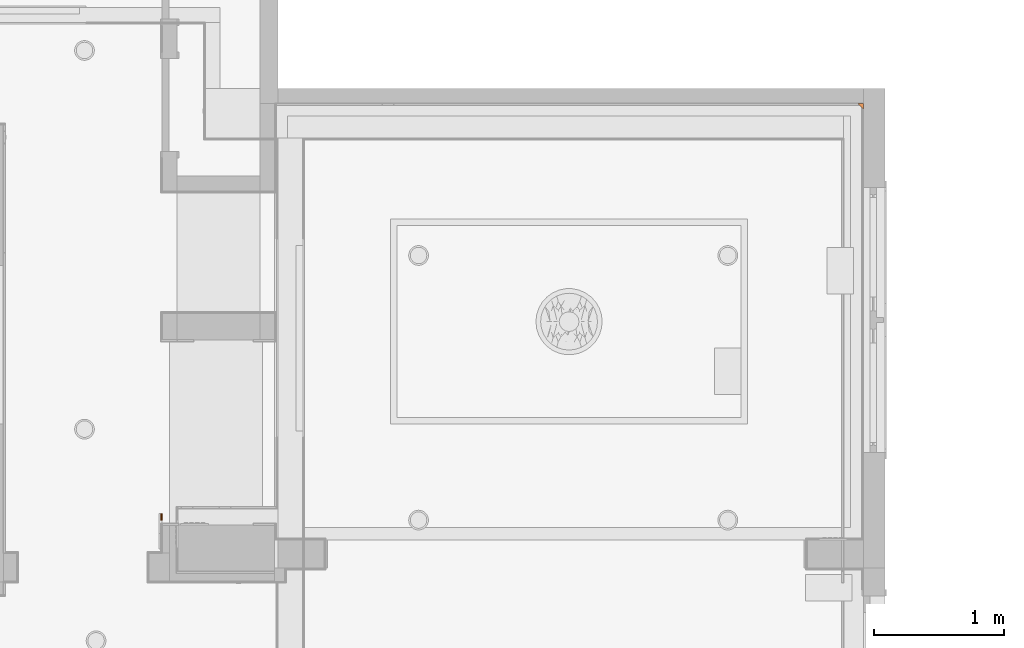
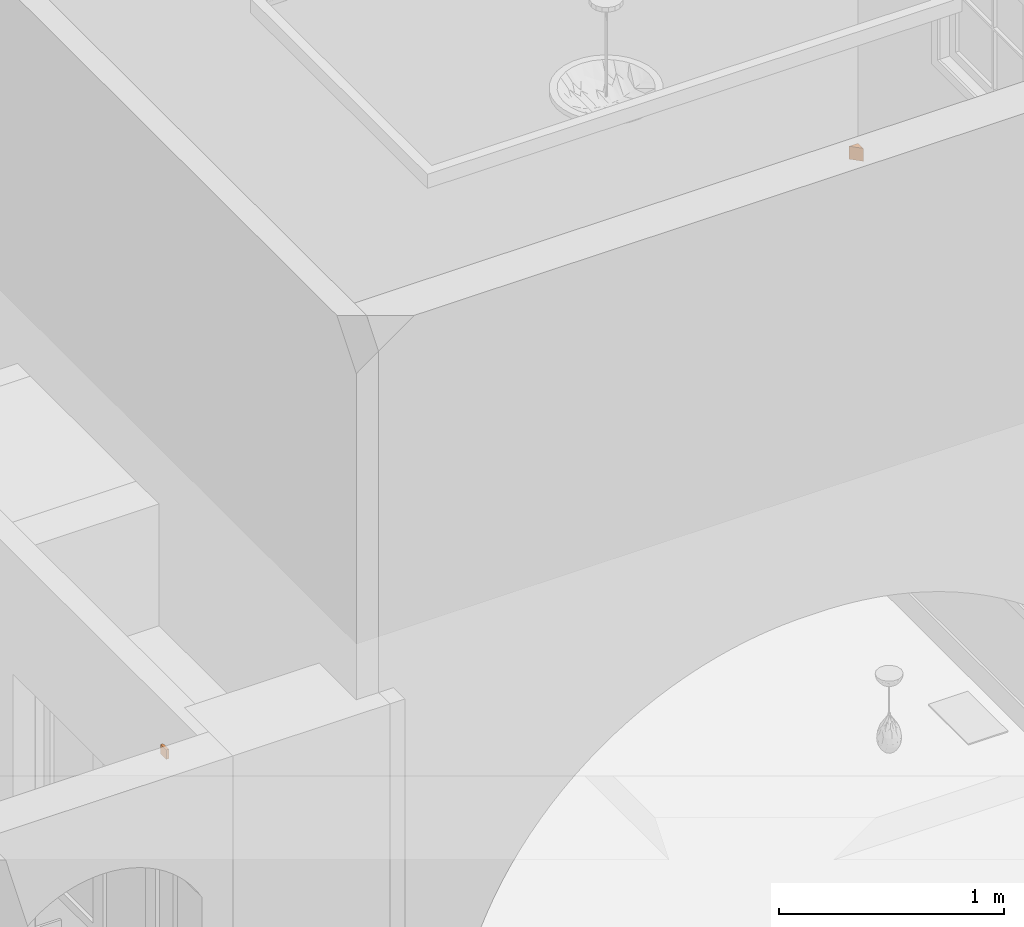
# One storey, part 71 of 81: 2 proxies.
"""IFC2X3 building model written with IfcOpenShell, lengths in feet."""

import ifcopenshell
import ifcopenshell.guid

model = None  # the IFC model being written
_history = None  # IfcOwnerHistory: only IFC2X3 demands one
_inside = {}  # id of a spatial element -> (the spatial element, [elements in it])
_under = {}  # id of a project, library or spatial element -> (it, [spatial elements below it])
_declared = {}  # id of a project -> (the project, [libraries it declares])
_typed = {}  # id of a type object -> (the type object, [elements of that type])
_made_of = {}  # id of a material, layer set ... -> (it, [elements and type objects made of it])


def new_model(schema):
    """Start an empty IFC model of exactly this schema.

    Asked for "IFC4X3", IfcOpenShell would pick the latest addendum, in which some entities
    have other attributes; the version numbers below select the first issue.
    IFC2X3 requires an IfcOwnerHistory on every rooted entity: one is made here for all.
    """
    global model, _history
    if schema == "IFC4X3":
        model = ifcopenshell.file(schema_version=(4, 3, 0, 0))
    else:
        model = ifcopenshell.file(schema=schema)
    _inside.clear()
    _under.clear()
    _declared.clear()
    _typed.clear()
    _made_of.clear()
    _history = None
    if model.schema == "IFC2X3":
        org = make("IfcOrganization", Name="unknown")
        user = make(
            "IfcPersonAndOrganization",
            ThePerson=make("IfcPerson", FamilyName="unknown"),
            TheOrganization=org,
        )
        app = make(
            "IfcApplication",
            ApplicationDeveloper=org,
            Version="unknown",
            ApplicationFullName="unknown",
            ApplicationIdentifier="unknown",
        )
        _history = make(
            "IfcOwnerHistory",
            OwningUser=user,
            OwningApplication=app,
            ChangeAction="ADDED",
            CreationDate=0,
        )
    return model


def make(cls, **values):
    """One entity of the class cls with the attributes given. An attribute that is None is left unset."""
    return model.create_entity(
        cls, **{name: value for name, value in values.items() if value is not None}
    )


def entity(cls, *values):
    """Any entity or typed value of the class cls, its attributes in the order of the schema. None: left unset."""
    e = model.create_entity(cls)
    for i, value in enumerate(values):
        if value is not None:
            e[i] = value
    return e


def rooted(cls, **values):
    """An entity with a GlobalId (a new one), such as an element, a storey or a relation."""
    return make(cls, GlobalId=ifcopenshell.guid.new(), OwnerHistory=_history, **values)


def si_unit(unit_type, name, prefix=None):
    """IfcSIUnit, for example si_unit("LENGTHUNIT", "METRE", prefix="MILLI")."""
    return make("IfcSIUnit", UnitType=unit_type, Prefix=prefix, Name=name)


def converted_unit(unit_type, name, factor, base, dimensions=None, offset=None):
    """IfcConversionBasedUnit, such as the inch: factor (a typed value) times the base unit."""
    return make(
        "IfcConversionBasedUnit"
        if offset is None
        else "IfcConversionBasedUnitWithOffset",
        ConversionOffset=offset,
        Dimensions=None
        if dimensions is None
        else entity("IfcDimensionalExponents", *dimensions),
        UnitType=unit_type,
        Name=name,
        ConversionFactor=make(
            "IfcMeasureWithUnit", ValueComponent=factor, UnitComponent=base
        ),
    )


def derived_unit(unit_type, elements):
    """IfcDerivedUnit: a product of units, each with its exponent."""
    return make(
        "IfcDerivedUnit",
        Elements=[
            make("IfcDerivedUnitElement", Unit=unit, Exponent=power)
            for unit, power in elements
        ],
        UnitType=unit_type,
    )


def assignment(units):
    """IfcUnitAssignment: the units of a project."""
    return None if units is None else make("IfcUnitAssignment", Units=units)


def point(xyz):
    """IfcCartesianPoint."""
    return None if xyz is None else make("IfcCartesianPoint", Coordinates=xyz)


def direction(xyz):
    """IfcDirection."""
    return None if xyz is None else make("IfcDirection", DirectionRatios=xyz)


def frame(location, z_axis=None, x_axis=None):
    """IfcAxis2Placement3D, a coordinate frame: its origin and axes. An axis left out is left unset."""
    return make(
        "IfcAxis2Placement3D",
        Location=point(location),
        Axis=direction(z_axis),
        RefDirection=direction(x_axis),
    )


def frame_2d(location, x_axis=None):
    """IfcAxis2Placement2D, a coordinate frame in the plane: its origin and x axis."""
    return make(
        "IfcAxis2Placement2D", Location=point(location), RefDirection=direction(x_axis)
    )


def origin():
    """The frame at (0, 0, 0) with its axes left unset."""
    return frame((0.0, 0.0, 0.0))


def origin_2d_with_axis():
    """The frame at (0, 0) in the plane with the x axis (1, 0) written out."""
    return frame_2d((0.0, 0.0), x_axis=(1.0, 0.0))


def place(relative_to, where):
    """IfcLocalPlacement: puts the frame where relative to a parent placement (None: the world)."""
    return make(
        "IfcLocalPlacement", PlacementRelTo=relative_to, RelativePlacement=where
    )


def context(
    kind, dimensions, precision=None, world=None, true_north=None, identifier=None
):
    """IfcGeometricRepresentationContext, for example the 3D "Model" context."""
    return make(
        "IfcGeometricRepresentationContext",
        ContextIdentifier=identifier,
        ContextType=kind,
        CoordinateSpaceDimension=dimensions,
        Precision=precision,
        WorldCoordinateSystem=world,
        TrueNorth=true_north,
    )


def subcontext(parent, identifier, kind, view, scale=None):
    """IfcGeometricRepresentationSubContext, for example "Body" below "Model"."""
    return make(
        "IfcGeometricRepresentationSubContext",
        ContextIdentifier=identifier,
        ContextType=kind,
        ParentContext=parent,
        TargetScale=scale,
        TargetView=view,
    )


def project(units=None, contexts=None):
    """IfcProject with its units and contexts."""
    return rooted(
        "IfcProject",
        Name="project",
        RepresentationContexts=contexts,
        UnitsInContext=assignment(units),
    )


def spatial(cls, under=None, at=None, **own):
    """A site, building, storey or space (cls), placed at a placement, below another one or the project."""
    s = rooted(cls, ObjectPlacement=at, **own)
    if under is not None:
        _under.setdefault(under.id(), (under, []))[1].append(s)
    return s


def polyline(points):
    """IfcPolyline through the points."""
    return make("IfcPolyline", Points=[point(p) for p in points])


def profile(cls, at=None, kind="AREA", **sizes):
    """A parametric profile (cls). Its sizes go by their IFC names, for example OverallWidth=200.0."""
    return make(cls, ProfileType=kind, Position=at, **sizes)


def rectangle(**sizes):
    """IfcRectangleProfileDef."""
    return profile("IfcRectangleProfileDef", **sizes)


def outline(outer, holes=None, kind="AREA"):
    """IfcArbitraryClosedProfileDef: a profile drawn as a closed curve; with holes, ...WithVoids."""
    if holes is None:
        return make("IfcArbitraryClosedProfileDef", ProfileType=kind, OuterCurve=outer)
    return make(
        "IfcArbitraryProfileDefWithVoids",
        ProfileType=kind,
        OuterCurve=outer,
        InnerCurves=holes,
    )


def extrude(swept, where, along, depth):
    """IfcExtrudedAreaSolid: the profile swept, set in the frame where, extruded along a direction by depth."""
    return make(
        "IfcExtrudedAreaSolid",
        SweptArea=swept,
        Position=where,
        ExtrudedDirection=direction(along),
        Depth=depth,
    )


def shape(context_of_items, identifier, shape_type, items):
    """IfcShapeRepresentation: the items that make up one representation, for example the "Body"."""
    return make(
        "IfcShapeRepresentation",
        ContextOfItems=context_of_items,
        RepresentationIdentifier=identifier,
        RepresentationType=shape_type,
        Items=items,
    )


def source(mapping_origin, context_of_items, identifier, shape_type, items):
    """IfcRepresentationMap: a shape defined once, which mapped items show again and again."""
    return make(
        "IfcRepresentationMap",
        MappingOrigin=mapping_origin,
        MappedRepresentation=shape(context_of_items, identifier, shape_type, items),
    )


def transform(
    local_origin,
    x_axis=None,
    y_axis=None,
    z_axis=None,
    scale=None,
    scale2=None,
    scale3=None,
    uniform=True,
):
    """IfcCartesianTransformationOperator3D, or its non-uniform kind. x_axis, y_axis, z_axis: its Axis1, 2, 3."""
    if uniform:
        return make(
            "IfcCartesianTransformationOperator3D",
            Axis1=direction(x_axis),
            Axis2=direction(y_axis),
            LocalOrigin=point(local_origin),
            Scale=scale,
            Axis3=direction(z_axis),
        )
    return make(
        "IfcCartesianTransformationOperator3DnonUniform",
        Axis1=direction(x_axis),
        Axis2=direction(y_axis),
        LocalOrigin=point(local_origin),
        Scale=scale,
        Axis3=direction(z_axis),
        Scale2=scale2,
        Scale3=scale3,
    )


def mapped(mapping_source, mapping_target):
    """IfcMappedItem: shows the shape of a source again, moved by a transform."""
    return make(
        "IfcMappedItem", MappingSource=mapping_source, MappingTarget=mapping_target
    )


def material(Name=None, Category=None):
    """IfcMaterial."""
    return make("IfcMaterial", Name=Name, Category=Category)


def made_of(thing, what):
    """Note that an element or type object is made of a material, layer set ...; save() writes the relation."""
    if what is not None:
        _made_of.setdefault(what.id(), (what, []))[1].append(thing)
    return thing


def type_object(cls, material=None, **own):
    """A type object (cls), such as IfcWallType, which elements share."""
    return made_of(rooted(cls, **own), material)


def type_shapes(of_type, sources):
    """Give a type object the sources (RepresentationMaps) that its elements show as mapped items."""
    of_type.RepresentationMaps = sources


def element(
    cls,
    number,
    at=None,
    inside=None,
    cuts=None,
    type_object=None,
    material=None,
    context=None,
    identifier="Body",
    shape_type=None,
    held_by="IfcProductDefinitionShape",
    body=None,
    shapes=None,
    **own,
):
    """One element of the class cls, such as IfcWall. Its Tag is "e" and its number.

    at: its placement. inside: the storey or other place that contains it. cuts: it is an
    opening in that element (IfcRelVoidsElement). A single representation is given by context,
    identifier, shape_type and body (its items); several are given by shapes. held_by: the class
    of the entity that holds the representations. save() writes the other relations.
    """
    e = rooted(cls, Tag="e%d" % number, ObjectPlacement=at, **own)
    if body is not None:
        shapes = [shape(context, identifier, shape_type, body)]
    if shapes is not None:
        e.Representation = make(held_by, Representations=shapes)
    if inside is not None:
        _inside.setdefault(inside.id(), (inside, []))[1].append(e)
    if cuts is not None:
        rooted(
            "IfcRelVoidsElement", RelatingBuildingElement=cuts, RelatedOpeningElement=e
        )
    if type_object is not None:
        _typed.setdefault(type_object.id(), (type_object, []))[1].append(e)
    return made_of(e, material)


def aggregate(whole, parts):
    """IfcRelAggregates: a whole, such as a stair, and the parts it consists of."""
    return rooted("IfcRelAggregates", RelatingObject=whole, RelatedObjects=parts)


def save(model, path):
    """Write the relations noted so far, then the file.

    IfcRelAggregates (storeys below a building ...), IfcRelContainedInSpatialStructure (elements
    in a storey), IfcRelDefinesByType, IfcRelAssociatesMaterial and IfcRelDeclares: one each for
    every whole, place, type object, material and project.
    """
    for whole, parts in _under.values():
        aggregate(whole, parts)
    for where, things in _inside.values():
        rooted(
            "IfcRelContainedInSpatialStructure",
            RelatedElements=things,
            RelatingStructure=where,
        )
    for kind, things in _typed.values():
        rooted("IfcRelDefinesByType", RelatedObjects=things, RelatingType=kind)
    for what, things in _made_of.values():
        rooted("IfcRelAssociatesMaterial", RelatedObjects=things, RelatingMaterial=what)
    for by, libraries in _declared.values():
        rooted("IfcRelDeclares", RelatingContext=by, RelatedDefinitions=libraries)
    model.write(path)


model = new_model("IFC2X3")

# Units and contexts
model_context = context("Model", 3, precision=0.0001, world=origin(), true_north=direction((6.12303176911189e-17, 1.0)))
body_context = subcontext(model_context, "Body", "Model", "MODEL_VIEW")
ifc_project = project(units=[converted_unit("LENGTHUNIT", "FOOT", entity("IfcRatioMeasure", 0.3048), si_unit("LENGTHUNIT", "METRE"), dimensions=[1, 0, 0, 0, 0, 0, 0]), converted_unit("AREAUNIT", "SQUARE FOOT", entity("IfcRatioMeasure", 0.09290304), si_unit("AREAUNIT", "SQUARE_METRE"), dimensions=[2, 0, 0, 0, 0, 0, 0]), converted_unit("VOLUMEUNIT", "CUBIC FOOT", entity("IfcRatioMeasure", 0.028316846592), si_unit("VOLUMEUNIT", "CUBIC_METRE"), dimensions=[3, 0, 0, 0, 0, 0, 0]), converted_unit("PLANEANGLEUNIT", "DEGREE", entity("IfcRatioMeasure", 0.0174532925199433), si_unit("PLANEANGLEUNIT", "RADIAN"), dimensions=[0, 0, 0, 0, 0, 0, 0]), si_unit("MASSUNIT", "GRAM", prefix="KILO"), derived_unit("MASSDENSITYUNIT", [(si_unit("MASSUNIT", "GRAM", prefix="KILO"), 1), (si_unit("LENGTHUNIT", "METRE"), -3)]), derived_unit("MOMENTOFINERTIAUNIT", [(si_unit("LENGTHUNIT", "METRE"), 4)]), si_unit("TIMEUNIT", "SECOND"), si_unit("FREQUENCYUNIT", "HERTZ"), si_unit("THERMODYNAMICTEMPERATUREUNIT", "DEGREE_CELSIUS"), derived_unit("THERMALTRANSMITTANCEUNIT", [(si_unit("MASSUNIT", "GRAM", prefix="KILO"), 1), (si_unit("THERMODYNAMICTEMPERATUREUNIT", "KELVIN"), -1), (si_unit("TIMEUNIT", "SECOND"), -3)]), derived_unit("VOLUMETRICFLOWRATEUNIT", [(si_unit("LENGTHUNIT", "METRE"), 3), (si_unit("TIMEUNIT", "SECOND"), -1)]), si_unit("ELECTRICCURRENTUNIT", "AMPERE"), si_unit("ELECTRICVOLTAGEUNIT", "VOLT"), si_unit("POWERUNIT", "WATT"), si_unit("FORCEUNIT", "NEWTON"), si_unit("ILLUMINANCEUNIT", "LUX"), si_unit("LUMINOUSFLUXUNIT", "LUMEN"), si_unit("LUMINOUSINTENSITYUNIT", "CANDELA"), derived_unit("USERDEFINED", [(si_unit("MASSUNIT", "GRAM", prefix="KILO"), -1), (si_unit("LENGTHUNIT", "METRE"), -2), (si_unit("TIMEUNIT", "SECOND"), 3), (si_unit("LUMINOUSFLUXUNIT", "LUMEN"), 1)]), derived_unit("LINEARVELOCITYUNIT", [(si_unit("LENGTHUNIT", "METRE"), 1), (si_unit("TIMEUNIT", "SECOND"), -1)]), si_unit("PRESSUREUNIT", "PASCAL"), derived_unit("USERDEFINED", [(si_unit("LENGTHUNIT", "METRE"), -2), (si_unit("MASSUNIT", "GRAM", prefix="KILO"), 1), (si_unit("TIMEUNIT", "SECOND"), -2)]), derived_unit("LINEARFORCEUNIT", [(si_unit("MASSUNIT", "GRAM", prefix="KILO"), 1), (si_unit("LENGTHUNIT", "METRE"), 1), (si_unit("TIMEUNIT", "SECOND"), -2), (si_unit("LENGTHUNIT", "METRE"), -1)]), derived_unit("PLANARFORCEUNIT", [(si_unit("MASSUNIT", "GRAM", prefix="KILO"), 1), (si_unit("LENGTHUNIT", "METRE"), 1), (si_unit("TIMEUNIT", "SECOND"), -2), (si_unit("LENGTHUNIT", "METRE"), -2)])], contexts=[model_context])

# Site, building, storey
site_placement = place(None, origin())
site = spatial("IfcSite", under=ifc_project, at=site_placement, Name="Default", CompositionType="ELEMENT")
building_placement = place(site_placement, origin())
building = spatial("IfcBuilding", under=site, at=building_placement, CompositionType="ELEMENT")
storey_placement = place(building_placement, origin())
storey = spatial("IfcBuildingStorey", under=building, at=storey_placement, Name="First floor", CompositionType="ELEMENT", Elevation=0.0)

# Proxies
ifc_material = material(Name="Default New Material")
building_element_proxy_type_1 = type_object("IfcBuildingElementProxyType", Name="Specialty Equipment 1:Specialty Equipment 1", PredefinedType="NOTDEFINED", material=ifc_material)
shared_shape_1 = source(origin(), body_context, "Body", "SweptSolid", [
    extrude(outline(polyline([(-0.050808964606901, -0.0508089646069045), (0.101617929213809, -0.0508089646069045), (-0.050808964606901, 0.101617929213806), (-0.050808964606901, -0.0508089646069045)])), frame((35.0741910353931, 27.6991910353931, 17.9171655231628), z_axis=(0.0, 0.0, 1.0), x_axis=(-1.0, 0.0, 0.0)), (0.0, 0.0, 1.0), 0.230472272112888),
])
type_shapes(building_element_proxy_type_1, [shared_shape_1])
proxy_1_placement = place(storey_placement, origin())
element("IfcBuildingElementProxy", 1, at=proxy_1_placement, inside=storey, type_object=building_element_proxy_type_1, material=ifc_material, Name="Specialty Equipment 1:Specialty Equipment 1", ObjectType="Specialty Equipment 1:Specialty Equipment 1", context=body_context, shape_type="MappedRepresentation", body=[
    mapped(shared_shape_1, transform((0.0, 0.0, 0.0), scale=1.0)),
])
building_element_proxy_type_2 = type_object("IfcBuildingElementProxyType", Name="Specialty Equipment_1:Specialty Equipment_1", PredefinedType="NOTDEFINED", material=ifc_material)
shared_shape_2 = source(origin(), body_context, "Body", "SweptSolid", [
    extrude(rectangle(XDim=0.166666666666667, YDim=0.0416666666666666, at=origin_2d_with_axis()), frame((0.0, -0.0208333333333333, 0.0), z_axis=(0.0, 0.0, 1.0), x_axis=(-1.0, 0.0, 0.0)), (0.0, 0.0, 1.0), 0.166666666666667),
])
type_shapes(building_element_proxy_type_2, [shared_shape_2])
proxy_2_placement = place(storey_placement, frame((17.4166666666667, 17.3329881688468, 19.75), z_axis=(0.0, 0.0, 1.0), x_axis=(0.0, 1.0, 0.0)))
element("IfcBuildingElementProxy", 2, at=proxy_2_placement, inside=storey, type_object=building_element_proxy_type_2, material=ifc_material, Name="Specialty Equipment_1:Specialty Equipment_1", ObjectType="Specialty Equipment_1:Specialty Equipment_1", context=body_context, shape_type="MappedRepresentation", body=[
    mapped(shared_shape_2, transform((0.0, 0.0, 0.0), scale=1.0)),
])

save(model, "model.ifc")
